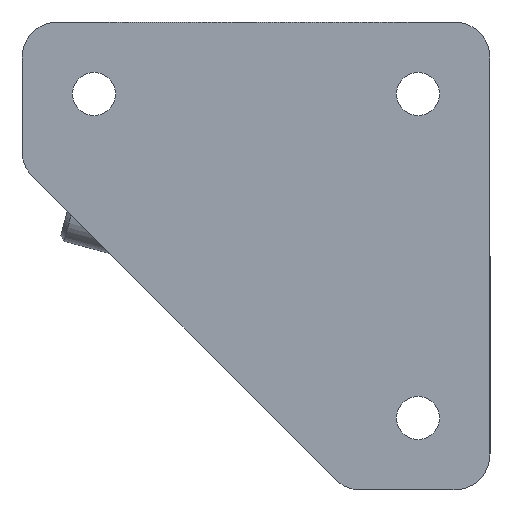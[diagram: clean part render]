
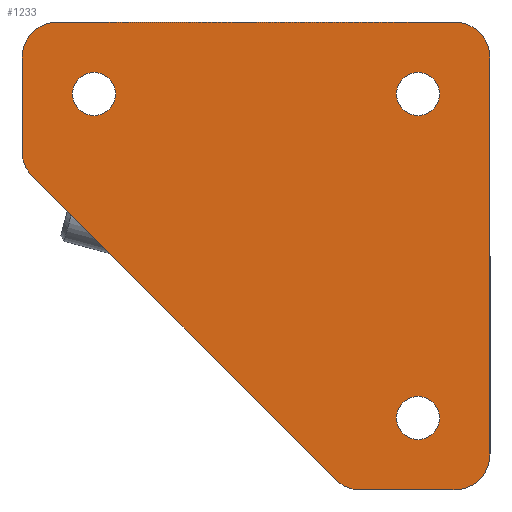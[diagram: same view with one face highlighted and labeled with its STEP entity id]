
A CAD part, front view. The second image highlights one B-rep face of the part: STEP entity #1233.
In plain terms, the highlighted planar face has unit normal (0, -1, 0).
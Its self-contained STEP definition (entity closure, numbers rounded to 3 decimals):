
#1233=ADVANCED_FACE('',(#2136,#2138,#2140,#2142),#2144,.F.);
#2136=FACE_BOUND('',#2137,.T.);
#2137=EDGE_LOOP('',(#2731,#2732,#2733,#2734,#2735,#2736,#2737,#2738,#2739,#2740));
#2138=FACE_BOUND('',#2139,.T.);
#2139=EDGE_LOOP('',(#2741));
#2140=FACE_BOUND('',#2141,.T.);
#2141=EDGE_LOOP('',(#2742));
#2142=FACE_BOUND('',#2143,.T.);
#2143=EDGE_LOOP('',(#2743));
#2144=PLANE('',#2145);
#2145=AXIS2_PLACEMENT_3D('',#2146,#2147,#2148);
#2146=CARTESIAN_POINT('',(0.,0.,0.));
#2147=DIRECTION('',(0.,1.,0.));
#2148=DIRECTION('',(-1.,0.,0.));
#2731=ORIENTED_EDGE('',*,*,#3017,.F.);
#2732=ORIENTED_EDGE('',*,*,#3018,.F.);
#2733=ORIENTED_EDGE('',*,*,#3019,.F.);
#2734=ORIENTED_EDGE('',*,*,#3020,.F.);
#2735=ORIENTED_EDGE('',*,*,#3021,.F.);
#2736=ORIENTED_EDGE('',*,*,#3022,.F.);
#2737=ORIENTED_EDGE('',*,*,#3023,.F.);
#2738=ORIENTED_EDGE('',*,*,#3024,.F.);
#2739=ORIENTED_EDGE('',*,*,#3025,.F.);
#2740=ORIENTED_EDGE('',*,*,#3026,.F.);
#2741=ORIENTED_EDGE('',*,*,#3027,.T.);
#2742=ORIENTED_EDGE('',*,*,#3028,.T.);
#2743=ORIENTED_EDGE('',*,*,#3029,.T.);
#3017=EDGE_CURVE('',#3352,#3353,#3354,.F.);
#3018=EDGE_CURVE('',#3355,#3352,#3356,.T.);
#3019=EDGE_CURVE('',#3357,#3355,#3358,.F.);
#3020=EDGE_CURVE('',#3359,#3357,#3360,.T.);
#3021=EDGE_CURVE('',#3361,#3359,#3362,.F.);
#3022=EDGE_CURVE('',#3363,#3361,#3364,.T.);
#3023=EDGE_CURVE('',#3365,#3363,#3366,.F.);
#3024=EDGE_CURVE('',#3367,#3365,#3368,.T.);
#3025=EDGE_CURVE('',#3369,#3367,#3370,.F.);
#3026=EDGE_CURVE('',#3353,#3369,#3371,.T.);
#3027=EDGE_CURVE('',#3372,#3372,#3373,.T.);
#3028=EDGE_CURVE('',#3374,#3374,#3375,.T.);
#3029=EDGE_CURVE('',#3376,#3376,#3377,.T.);
#3352=VERTEX_POINT('',#4939);
#3353=VERTEX_POINT('',#4940);
#3354=CIRCLE('',#4941,5.);
#3355=VERTEX_POINT('',#4945);
#3356=LINE('',#4946,#4947);
#3357=VERTEX_POINT('',#4949);
#3358=CIRCLE('',#4950,5.);
#3359=VERTEX_POINT('',#4954);
#3360=LINE('',#4955,#4956);
#3361=VERTEX_POINT('',#4958);
#3362=CIRCLE('',#4959,5.);
#3363=VERTEX_POINT('',#4963);
#3364=LINE('',#4964,#4965);
#3365=VERTEX_POINT('',#4967);
#3366=CIRCLE('',#4968,5.);
#3367=VERTEX_POINT('',#4972);
#3368=LINE('',#4973,#4974);
#3369=VERTEX_POINT('',#4976);
#3370=CIRCLE('',#4977,5.);
#3371=LINE('',#4981,#4982);
#3372=VERTEX_POINT('',#4984);
#3373=CIRCLE('',#4985,3.);
#3374=VERTEX_POINT('',#4989);
#3375=CIRCLE('',#4990,3.);
#3376=VERTEX_POINT('',#4994);
#3377=CIRCLE('',#4995,3.);
#4939=CARTESIAN_POINT('',(0.,0.,-60.));
#4940=CARTESIAN_POINT('',(-5.,0.,-65.));
#4941=AXIS2_PLACEMENT_3D('',#4942,#4943,#4944);
#4942=CARTESIAN_POINT('',(-5.,0.,-60.));
#4943=DIRECTION('',(0.,-1.,0.));
#4944=DIRECTION('',(0.,0.,-1.));
#4945=CARTESIAN_POINT('',(0.,0.,-5.));
#4946=CARTESIAN_POINT('',(0.,0.,-5.));
#4947=VECTOR('',#4948,1.);
#4948=DIRECTION('',(0.,0.,-1.));
#4949=CARTESIAN_POINT('',(-5.,0.,0.));
#4950=AXIS2_PLACEMENT_3D('',#4951,#4952,#4953);
#4951=CARTESIAN_POINT('',(-5.,0.,-5.));
#4952=DIRECTION('',(0.,-1.,0.));
#4953=DIRECTION('',(1.,0.,0.));
#4954=CARTESIAN_POINT('',(-60.,0.,0.));
#4955=CARTESIAN_POINT('',(-60.,0.,0.));
#4956=VECTOR('',#4957,1.);
#4957=DIRECTION('',(1.,0.,0.));
#4958=CARTESIAN_POINT('',(-65.,0.,-5.));
#4959=AXIS2_PLACEMENT_3D('',#4960,#4961,#4962);
#4960=CARTESIAN_POINT('',(-60.,0.,-5.));
#4961=DIRECTION('',(0.,-1.,0.));
#4962=DIRECTION('',(0.,0.,1.));
#4963=CARTESIAN_POINT('',(-65.,0.,-17.929));
#4964=CARTESIAN_POINT('',(-65.,0.,-17.929));
#4965=VECTOR('',#4966,1.);
#4966=DIRECTION('',(0.,0.,1.));
#4967=CARTESIAN_POINT('',(-63.536,0.,-21.464));
#4968=AXIS2_PLACEMENT_3D('',#4969,#4970,#4971);
#4969=CARTESIAN_POINT('',(-60.,0.,-17.929));
#4970=DIRECTION('',(0.,-1.,0.));
#4971=DIRECTION('',(-1.,0.,0.));
#4972=CARTESIAN_POINT('',(-21.464,0.,-63.536));
#4973=CARTESIAN_POINT('',(-21.464,0.,-63.536));
#4974=VECTOR('',#4975,1.);
#4975=DIRECTION('',(-0.707,0.,0.707));
#4976=CARTESIAN_POINT('',(-17.929,0.,-65.));
#4977=AXIS2_PLACEMENT_3D('',#4978,#4979,#4980);
#4978=CARTESIAN_POINT('',(-17.929,0.,-60.));
#4979=DIRECTION('',(0.,-1.,0.));
#4980=DIRECTION('',(-0.707,0.,-0.707));
#4981=CARTESIAN_POINT('',(-5.,0.,-65.));
#4982=VECTOR('',#4983,1.);
#4983=DIRECTION('',(-1.,0.,0.));
#4984=CARTESIAN_POINT('',(-7.,0.,-55.));
#4985=AXIS2_PLACEMENT_3D('',#4986,#4987,#4988);
#4986=CARTESIAN_POINT('',(-10.,0.,-55.));
#4987=DIRECTION('',(0.,1.,0.));
#4988=DIRECTION('',(1.,0.,0.));
#4989=CARTESIAN_POINT('',(-7.,0.,-10.));
#4990=AXIS2_PLACEMENT_3D('',#4991,#4992,#4993);
#4991=CARTESIAN_POINT('',(-10.,0.,-10.));
#4992=DIRECTION('',(0.,1.,0.));
#4993=DIRECTION('',(1.,0.,0.));
#4994=CARTESIAN_POINT('',(-52.,0.,-10.));
#4995=AXIS2_PLACEMENT_3D('',#4996,#4997,#4998);
#4996=CARTESIAN_POINT('',(-55.,0.,-10.));
#4997=DIRECTION('',(0.,1.,0.));
#4998=DIRECTION('',(1.,0.,0.));
